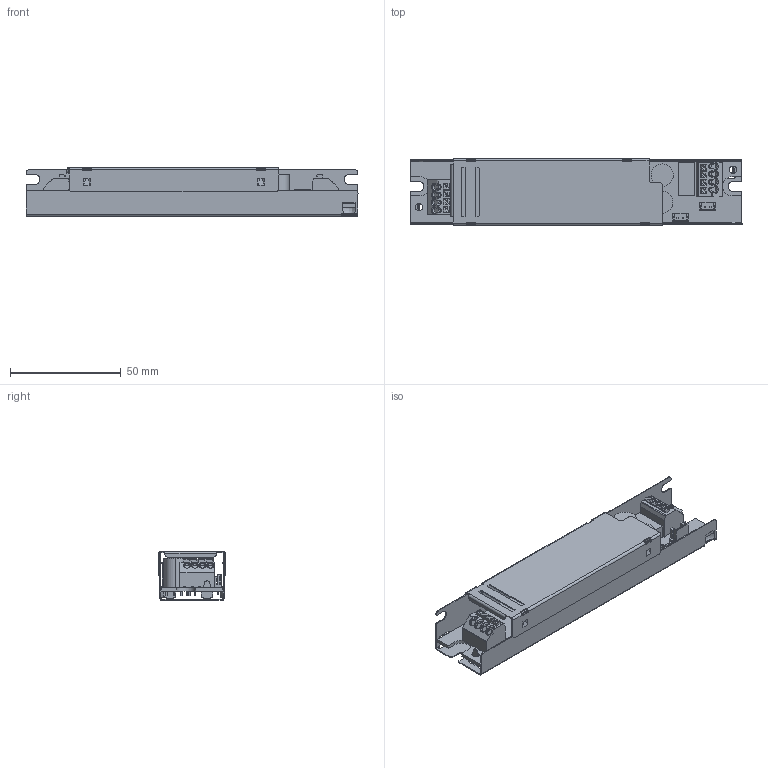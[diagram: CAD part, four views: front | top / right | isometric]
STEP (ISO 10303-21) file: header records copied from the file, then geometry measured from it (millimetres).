
FILE_DESCRIPTION (( 'STEP AP214' ), '1' );
FILE_NAME ('LELK V21.STEP', '2019-12-20T07:05:32', ( '' ), ( '' ), 'SwSTEP 2.0', 'SolidWorks 2020', '' );
FILE_SCHEMA (( 'AUTOMOTIVE_DESIGN' ));
Length unit declared in the file: millimetre
Products named in the file (9): LELK V21; B2B-EH-A; 285116 K-Gehäuse Deckel M090725V13; TX2-12V_HFD3; 285116 K-Gehäuse Boden M09073V12; K-Print; 250-4 pol Klemme; 680uF_100V; 47uF_100V
Assembly tree (10 placements, depth 2):
  LELK V21
    K-Print
    285116 K-Gehäuse Boden M09073V12
    285116 K-Gehäuse Deckel M090725V13
    250-4 pol Klemme  x2
    B2B-EH-A  x2
    680uF_100V
    47uF_100V
    TX2-12V_HFD3
Bounding box: 150 x 30.15 x 22.05 mm (x, y, z)
Volume: 20202.4 mm3; surface area: 42057.3 mm2
Topology: 10 solids, 10 shells, 909 faces, 2594 edges, 1712 vertices
Faces by surface type: plane 608, cylinder 269, bspline 16, cone 16
Entity records: 30573 total; most frequent: CARTESIAN_POINT 7483, ORIENTED_EDGE 3910, DIRECTION 3697, EDGE_CURVE 1955, LINE 1423, VECTOR 1423, VERTEX_POINT 1290, AXIS2_PLACEMENT_3D 1137
